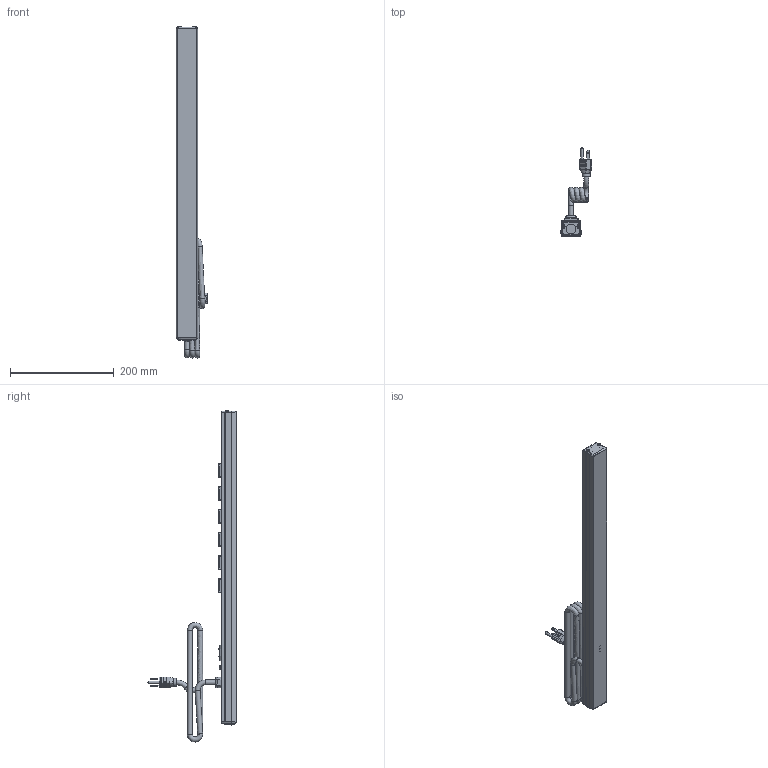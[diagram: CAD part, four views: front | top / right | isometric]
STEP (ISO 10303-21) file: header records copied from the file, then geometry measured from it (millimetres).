
FILE_DESCRIPTION((''),'2;1');
FILE_NAME('E:\Dutton\Manufacturing\drawings\Updated 2009\Vertical Rack Mount Strips\1585 Series\STEP''s\15852H6A1.stp','2010-01-19T07:36:53',('tfoster'),(''),'Autodesk Inventor 2010','Autodesk Inventor 2010','');
FILE_SCHEMA(('AUTOMOTIVE_DESIGN { 1 0 10303 214 1 1 1 1 }'));
Products named in the file (14): 15852H6A1; 15852H6 top; 15852 bottom; End Cap; End Cap w breaker; Reset Switch; #6 - 0.375 Type A screw; Cored 2; toothwasher; round head 1-way 8-32 x 0.5 screw; Power Switch Assembly; Power Switch; Power Switch pt; Receptacle
Assembly tree (21 placements, depth 3):
  15852H6A1
    15852H6 top
    15852 bottom
    End Cap
    End Cap w breaker
    Reset Switch
    #6 - 0.375 Type A screw  x4
    Cored 2
    toothwasher
    round head 1-way 8-32 x 0.5 screw
    Power Switch Assembly
      Power Switch
      Power Switch pt
    Receptacle  x6
Bounding box: 60.19 x 170.82 x 640.49 mm (x, y, z)
Volume: 342500.6 mm3; surface area: 274542.9 mm2
Topology: 20 solids, 20 shells, 1017 faces, 2978 edges, 2003 vertices
Faces by surface type: plane 588, cylinder 222, bspline 139, sphere 30, cone 23, torus 15
Full cylindrical faces by diameter (mm): 1 x2, 1.803 x3, 1.905 x2, 3 x2, 3.175 x12, 4.3 x1, 4.775 x1, 4.826 x1, 7.849 x1, 9.5 x5, 11 x1, 15.621 x1, 19.05 x2
Entity records: 26917 total; most frequent: CARTESIAN_POINT 9654, ORIENTED_EDGE 3740, DIRECTION 3085, EDGE_CURVE 1870, VERTEX_POINT 1320, VECTOR 1077, LINE 1077, AXIS2_PLACEMENT_3D 1004
